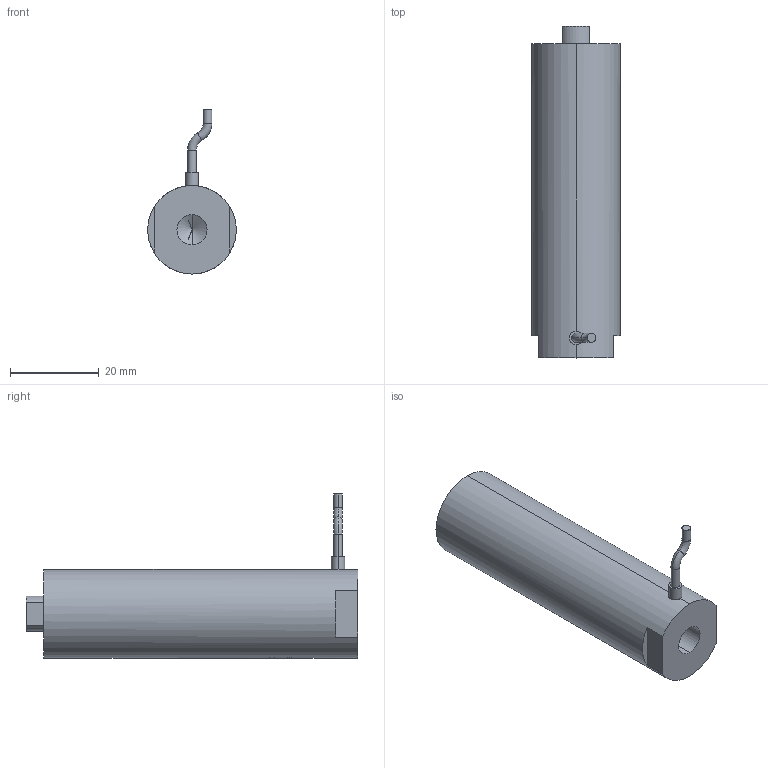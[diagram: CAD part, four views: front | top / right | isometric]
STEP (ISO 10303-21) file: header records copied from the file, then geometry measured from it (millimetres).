
FILE_DESCRIPTION (( 'STEP AP203' ), '1' );
FILE_NAME ('ﾄﾚﾂﾝﾎﾆﾊｽ60VS20.STEP', '2021-07-08T05:23:55', ( 'ﾎ｢ﾈ橆ﾃｻｧ' ), ( 'ﾎ｢ﾈ晥ｫﾋｾ' ), 'SwSTEP 2.0', 'SolidWorks 2016', '' );
FILE_SCHEMA (( 'CONFIG_CONTROL_DESIGN' ));
Length unit declared in the file: millimetre
Products named in the file (1): 囀蹟恇宒60VS20
Bounding box: 20 x 75 x 37.06 mm (x, y, z)
Volume: 21916.2 mm3; surface area: 5645.2 mm2
Topology: 1 solids, 1 shells, 933 faces, 2525 edges, 1676 vertices
Faces by surface type: bspline 519, plane 299, cylinder 107, torus 4, cone 4
Entity records: 45168 total; most frequent: CARTESIAN_POINT 26326, ORIENTED_EDGE 5034, EDGE_CURVE 2517, DIRECTION 1893, B_SPLINE_CURVE_WITH_KNOTS 1714, VERTEX_POINT 1674, EDGE_LOOP 1021, FACE_OUTER_BOUND 933
